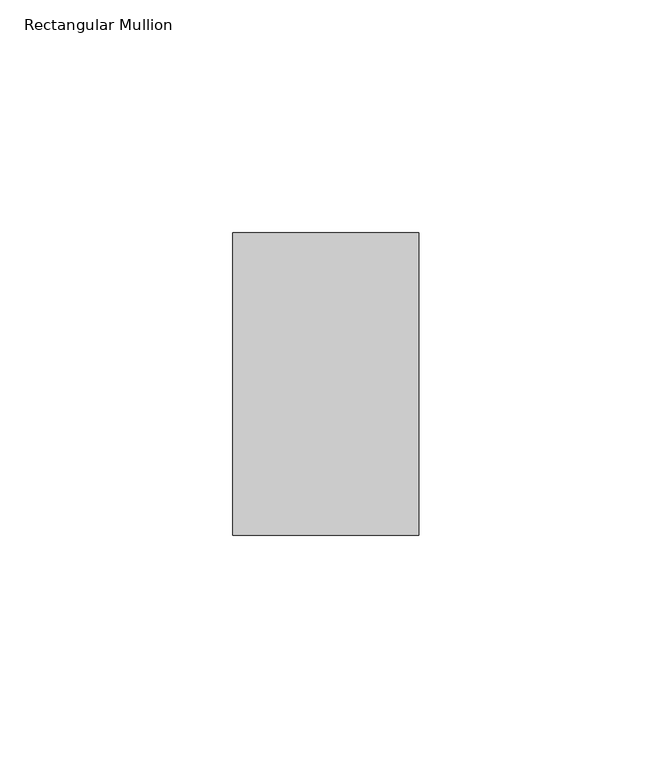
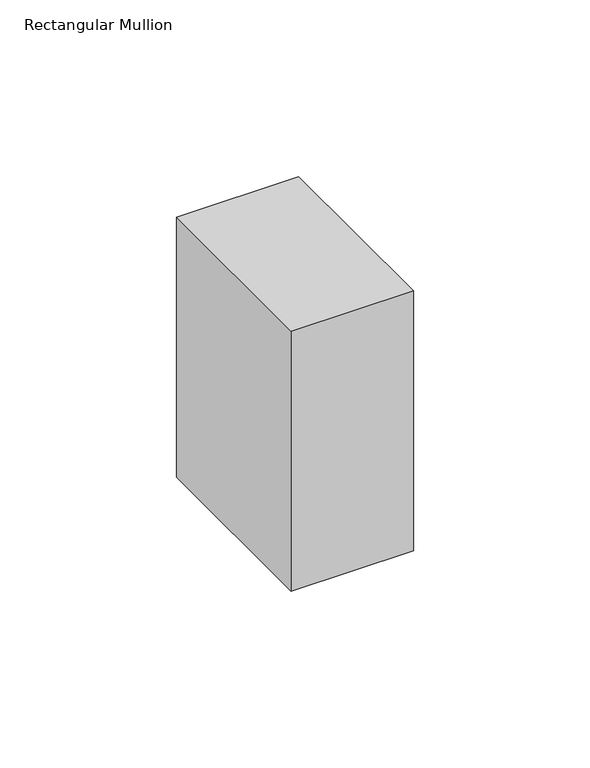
"""IFC4 building model written with IfcOpenShell, lengths in millimetres: member geometry, Rectangular Mullion : Batten_Timber_Modinex_Austratus_Grid_Fascia_40x65_AlaskanYellowCedar."""

from ifc_helpers import new_model, si_unit, frame, origin, place, context, project, spatial, polyline, outline, extrude, source, transform, mapped, element, save


def rectangular_mullion_0b6a8654(model_context):
    return source(origin(), model_context, "Body", "SweptSolid", [
        extrude(outline(polyline([(-20.0, 65.0), (20.0, 65.0), (20.0, 0.0), (-20.0, 0.0), (-20.0, 65.0)])), frame((0.0, 0.0, -90.0000003), z_axis=(0.0, 0.0, 1.0), x_axis=(1.0, 0.0, 0.0)), (0.0, 0.0, 1.0), 90.0000003),
    ])


if __name__ == "__main__":
    model = new_model("IFC4")
    model_context = context("Model", 3, world=origin())
    ifc_project = project(units=[si_unit("LENGTHUNIT", "METRE", prefix="MILLI")], contexts=[model_context])
    site = spatial("IfcSite", under=ifc_project)
    building = spatial("IfcBuilding", under=site)
    placement = place(None, origin())
    rectangular_mullion_shape = rectangular_mullion_0b6a8654(model_context)
    element("IfcMember", 1, ObjectType="Rectangular Mullion : Batten_Timber_Modinex_Austratus_Grid_Fascia_40x65_AlaskanYellowCedar", at=placement, inside=building, context=model_context, shape_type="MappedRepresentation", body=[
        mapped(rectangular_mullion_shape, transform((0.0, 0.0, 0.0), x_axis=(1.0, 0.0, 0.0), y_axis=(0.0, 1.0, 0.0), z_axis=(0.0, 0.0, 1.0))),
    ])
    save(model, "model.ifc")
